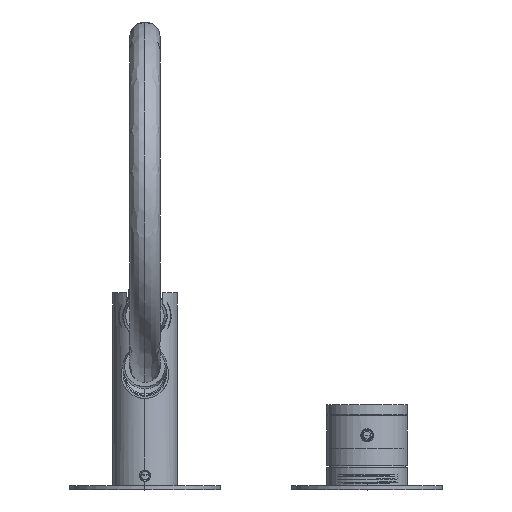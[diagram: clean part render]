
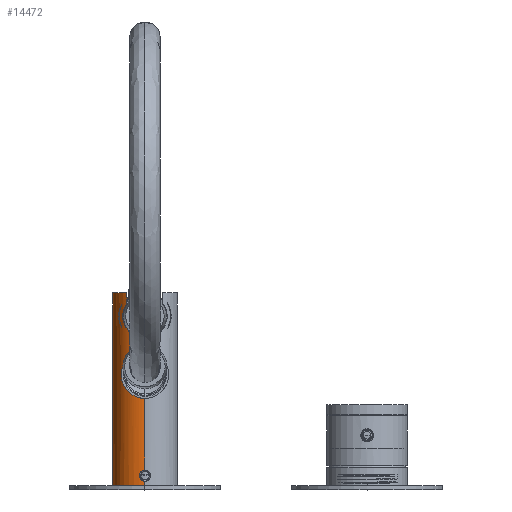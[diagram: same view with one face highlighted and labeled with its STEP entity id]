
A CAD part, top view. The second image highlights one B-rep face of the part: STEP entity #14472.
In plain terms, the highlighted cylindrical face has radius 16 mm (diameter 32 mm), a partial arc.
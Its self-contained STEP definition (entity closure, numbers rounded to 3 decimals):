
#5476=CARTESIAN_POINT('',(-110.,59.757,16.));
#5477=CARTESIAN_POINT('',(-110.898,59.757,16.));
#5478=CARTESIAN_POINT('',(-112.693,59.544,15.852));
#5479=CARTESIAN_POINT('',(-115.396,58.487,15.146));
#5480=CARTESIAN_POINT('',(-117.749,56.726,14.066));
#5481=CARTESIAN_POINT('',(-119.51,54.454,12.906));
#5482=CARTESIAN_POINT('',(-120.553,52.,12.037));
#5483=CARTESIAN_POINT('',(-120.831,50.321,11.776));
#5484=CARTESIAN_POINT('',(-120.869,49.464,11.742));
#5486=CARTESIAN_POINT('',(-110.,33.25,16.));
#5487=CARTESIAN_POINT('',(-111.093,33.25,16.));
#5488=CARTESIAN_POINT('',(-113.291,33.542,15.784));
#5489=CARTESIAN_POINT('',(-116.643,35.064,14.694));
#5490=CARTESIAN_POINT('',(-119.389,37.638,13.051));
#5491=CARTESIAN_POINT('',(-121.038,40.576,11.618));
#5492=CARTESIAN_POINT('',(-121.785,43.546,10.823));
#5493=CARTESIAN_POINT('',(-121.778,46.503,10.831));
#5494=CARTESIAN_POINT('',(-121.274,48.478,11.367));
#5495=CARTESIAN_POINT('',(-120.869,49.464,11.742));
#5497=DIRECTION('',(0.,-1.,0.));
#5498=VECTOR('',#5497,35.5);
#5499=CARTESIAN_POINT('',(-110.,33.25,16.));
#5500=LINE('',#5499,#5498);
#5501=CARTESIAN_POINT('',(-110.,-7.75,16.));
#5502=CARTESIAN_POINT('',(-110.517,-7.75,16.));
#5503=CARTESIAN_POINT('',(-111.415,-7.498,
15.953));
#5504=CARTESIAN_POINT('',(-112.503,-6.434,
15.809));
#5505=CARTESIAN_POINT('',(-112.874,-5.,
15.738));
#5506=CARTESIAN_POINT('',(-112.503,-3.567,
15.809));
#5507=CARTESIAN_POINT('',(-111.415,-2.502,
15.953));
#5508=CARTESIAN_POINT('',(-110.517,-2.25,16.));
#5509=CARTESIAN_POINT('',(-110.,-2.25,16.));
#5511=DIRECTION('',(0.,-1.,0.));
#5512=VECTOR('',#5511,2.25);
#5513=CARTESIAN_POINT('',(-110.,-7.75,16.));
#5514=LINE('',#5513,#5512);
#5515=DIRECTION('',(0.,-1.,0.));
#5516=VECTOR('',#5515,71.);
#5517=CARTESIAN_POINT('',(-110.,61.,-16.));
#5518=LINE('',#5517,#5516);
#5519=CARTESIAN_POINT('',(-118.9,83.476,-13.296));
#5520=CARTESIAN_POINT('',(-119.839,82.594,
-12.668));
#5521=CARTESIAN_POINT('',(-121.29,80.73,
-11.422));
#5522=CARTESIAN_POINT('',(-122.591,77.721,
-9.906));
#5523=CARTESIAN_POINT('',(-123.095,74.669,
-9.19));
#5524=CARTESIAN_POINT('',(-122.921,71.719,
-9.45));
#5525=CARTESIAN_POINT('',(-121.983,68.622,
-10.66));
#5526=CARTESIAN_POINT('',(-120.253,65.734,
-12.405));
#5527=CARTESIAN_POINT('',(-117.336,63.005,
-14.393));
#5528=CARTESIAN_POINT('',(-113.629,61.319,
-15.74));
#5529=CARTESIAN_POINT('',(-111.203,61.,-16.));
#5530=CARTESIAN_POINT('',(-110.,61.,-16.));
#5532=DIRECTION('',(0.,1.,0.));
#5533=VECTOR('',#5532,2.024);
#5534=CARTESIAN_POINT('',(-118.9,83.476,-13.296));
#5535=LINE('',#5534,#5533);
#5536=CARTESIAN_POINT('',(-110.,85.5,0.));
#5537=DIRECTION('',(0.,-1.,0.));
#5538=DIRECTION('',(-0.556,0.,0.831));
#5539=AXIS2_PLACEMENT_3D('',#5536,#5537,#5538);
#5541=DIRECTION('',(0.,1.,0.));
#5542=VECTOR('',#5541,5.035);
#5543=CARTESIAN_POINT('',(-118.9,80.465,13.296));
#5544=LINE('',#5543,#5542);
#5545=CARTESIAN_POINT('',(-110.,63.,16.));
#5546=CARTESIAN_POINT('',(-111.131,63.,16.));
#5547=CARTESIAN_POINT('',(-113.382,63.334,15.769));
#5548=CARTESIAN_POINT('',(-116.758,65.028,14.641));
#5549=CARTESIAN_POINT('',(-119.423,67.931,13.01));
#5550=CARTESIAN_POINT('',(-120.772,71.104,11.843));
#5551=CARTESIAN_POINT('',(-121.145,74.217,11.478));
#5552=CARTESIAN_POINT('',(-120.636,77.382,11.973));
#5553=CARTESIAN_POINT('',(-119.634,79.454,12.805));
#5554=CARTESIAN_POINT('',(-118.9,80.465,13.296));
#5556=DIRECTION('',(0.,-1.,0.));
#5557=VECTOR('',#5556,3.243);
#5558=CARTESIAN_POINT('',(-110.,63.,16.));
#5559=LINE('',#5558,#5557);
#5600=CARTESIAN_POINT('',(-110.,59.757,16.));
#5611=CARTESIAN_POINT('',(-110.,63.,16.));
#5626=CARTESIAN_POINT('',(-110.,61.,-16.));
#5639=CARTESIAN_POINT('',(-110.,-7.75,16.));
#5647=CARTESIAN_POINT('',(-110.,-2.25,16.));
#6158=CARTESIAN_POINT('',(-110.,-10.,0.));
#6159=DIRECTION('',(0.,1.,0.));
#6160=DIRECTION('',(0.,0.,-1.));
#6161=AXIS2_PLACEMENT_3D('',#6158,#6159,#6160);
#8671=VERTEX_POINT('',#5639);
#8672=VERTEX_POINT('',#5647);
#8673=CARTESIAN_POINT('',(-110.,33.25,16.));
#8674=VERTEX_POINT('',#8673);
#8727=CARTESIAN_POINT('',(-118.9,85.5,13.296));
#8728=CARTESIAN_POINT('',(-118.9,85.5,-13.296));
#8729=VERTEX_POINT('',#8727);
#8730=VERTEX_POINT('',#8728);
#8739=CARTESIAN_POINT('',(-118.9,83.476,-13.296));
#8740=VERTEX_POINT('',#8739);
#8741=CARTESIAN_POINT('',(-118.9,80.465,13.296));
#8742=VERTEX_POINT('',#8741);
#8747=VERTEX_POINT('',#5626);
#8748=VERTEX_POINT('',#5611);
#8757=CARTESIAN_POINT('',(-110.,-10.,16.));
#8758=CARTESIAN_POINT('',(-110.,-10.,-16.));
#8759=VERTEX_POINT('',#8757);
#8760=VERTEX_POINT('',#8758);
#8894=VERTEX_POINT('',#5600);
#8895=VERTEX_POINT('',#5484);
#14440=CARTESIAN_POINT('',(-110.,-14.775,0.));
#14441=DIRECTION('',(0.,1.,0.));
#14442=DIRECTION('',(0.,0.,-1.));
#14443=AXIS2_PLACEMENT_3D('',#14440,#14441,#14442);
#14444=CYLINDRICAL_SURFACE('',#14443,16.);
#14445=ORIENTED_EDGE('',*,*,#14418,.T.);
#14447=ORIENTED_EDGE('',*,*,#14446,.F.);
#14449=ORIENTED_EDGE('',*,*,#14448,.T.);
#14451=ORIENTED_EDGE('',*,*,#14450,.F.);
#14453=ORIENTED_EDGE('',*,*,#14452,.T.);
#14455=ORIENTED_EDGE('',*,*,#14454,.F.);
#14457=ORIENTED_EDGE('',*,*,#14456,.F.);
#14459=ORIENTED_EDGE('',*,*,#14458,.F.);
#14461=ORIENTED_EDGE('',*,*,#14460,.T.);
#14463=ORIENTED_EDGE('',*,*,#14462,.F.);
#14465=ORIENTED_EDGE('',*,*,#14464,.F.);
#14467=ORIENTED_EDGE('',*,*,#14466,.F.);
#14469=ORIENTED_EDGE('',*,*,#14468,.T.);
#14470=EDGE_LOOP('',(#14445,#14447,#14449,#14451,#14453,#14455,#14457,#14459,
#14461,#14463,#14465,#14467,#14469));
#14471=FACE_OUTER_BOUND('',#14470,.F.);
#14472=ADVANCED_FACE('',(#14471),#14444,.T.);
#5485=B_SPLINE_CURVE_WITH_KNOTS('',3,(#5476,#5477,#5478,#5479,#5480,#5481,#5482,
#5483,#5484),.UNSPECIFIED.,.F.,.F.,(4,1,1,1,1,1,4),(0.,0.167,
0.333,0.5,0.667,0.833,1.),
.UNSPECIFIED.);
#5496=B_SPLINE_CURVE_WITH_KNOTS('',3,(#5486,#5487,#5488,#5489,#5490,#5491,#5492,
#5493,#5494,#5495),.UNSPECIFIED.,.F.,.F.,(4,1,1,1,1,1,1,4),(0.,
0.143,0.286,0.429,0.571,
0.714,0.857,1.),.UNSPECIFIED.);
#5510=B_SPLINE_CURVE_WITH_KNOTS('',3,(#5501,#5502,#5503,#5504,#5505,#5506,#5507,
#5508,#5509),.UNSPECIFIED.,.F.,.F.,(4,1,1,1,1,1,4),(0.,0.167,
0.333,0.5,0.667,0.833,1.),
.UNSPECIFIED.);
#5531=B_SPLINE_CURVE_WITH_KNOTS('',3,(#5519,#5520,#5521,#5522,#5523,#5524,#5525,
#5526,#5527,#5528,#5529,#5530),.UNSPECIFIED.,.F.,.F.,(4,1,1,1,1,1,1,1,1,4),
(0.,0.111,0.222,0.333,0.444,
0.556,0.667,0.778,0.889,1.),
.UNSPECIFIED.);
#5540=CIRCLE('',#5539,16.);
#5555=B_SPLINE_CURVE_WITH_KNOTS('',3,(#5545,#5546,#5547,#5548,#5549,#5550,#5551,
#5552,#5553,#5554),.UNSPECIFIED.,.F.,.F.,(4,1,1,1,1,1,1,4),(0.,
0.143,0.286,0.429,0.571,
0.714,0.857,1.),.UNSPECIFIED.);
#6162=CIRCLE('',#6161,16.);
#14418=EDGE_CURVE('',#8894,#8895,#5485,.T.);
#14446=EDGE_CURVE('',#8674,#8895,#5496,.T.);
#14448=EDGE_CURVE('',#8674,#8672,#5500,.T.);
#14450=EDGE_CURVE('',#8671,#8672,#5510,.T.);
#14452=EDGE_CURVE('',#8671,#8759,#5514,.T.);
#14454=EDGE_CURVE('',#8760,#8759,#6162,.T.);
#14456=EDGE_CURVE('',#8747,#8760,#5518,.T.);
#14458=EDGE_CURVE('',#8740,#8747,#5531,.T.);
#14460=EDGE_CURVE('',#8740,#8730,#5535,.T.);
#14462=EDGE_CURVE('',#8729,#8730,#5540,.T.);
#14464=EDGE_CURVE('',#8742,#8729,#5544,.T.);
#14466=EDGE_CURVE('',#8748,#8742,#5555,.T.);
#14468=EDGE_CURVE('',#8748,#8894,#5559,.T.);
